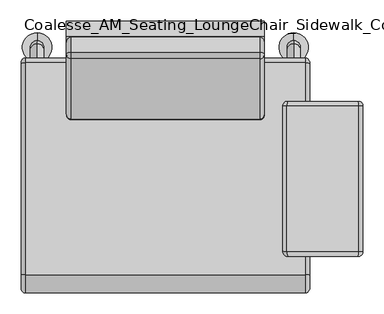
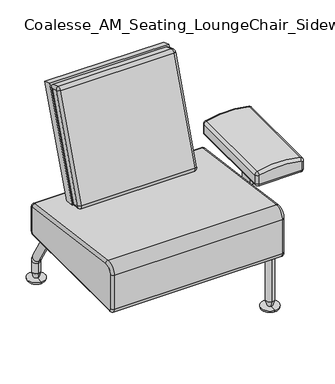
"""IFC4 building model written with IfcOpenShell, lengths in millimetres: furniture geometry, Coalesse_AM_Seating_LoungeChair_Sidewalk_Collaborative : Left Arm."""

from ifc_helpers import new_model, si_unit, point, frame, origin, place, context, project, spatial, polyline, circle_curve, ellipse_curve, trimmed, outline, extrude, source, transform, mapped, element, save
from ifc_brep_helpers import plane_surface, cylinder_surface, revolved_surface, advanced_brep


def coalesse_am_seating_loungechair_sidewalk_collaborative_left_ebcdef7f(model_context):
    return source(origin(), model_context, "Body", "SolidModel", [
        advanced_brep(
        [(122.9089794, 412.7742549, 335.1190448), (122.9089794, 414.1472627, 333.546102), (122.9089794, 414.1472627, 228.6), (122.9089794, 412.5597627, 227.0125), (122.9089794, -114.4902373, 227.0125), (122.9089794, -122.4277373, 234.95), (122.9089794, -122.4277373, 377.1837519), (122.9089794, -91.7938701, 403.9237811), (808.7089794, -91.7938701, 403.9237811), (808.7089794, -122.4277373, 377.1837519), (808.7089794, -122.4277373, 234.95), (808.7089794, -114.4902373, 227.0125), (808.7089794, 412.5597627, 227.0125), (808.7089794, 414.1472627, 228.6), (808.7089794, 414.1472627, 333.546102), (808.7089794, 412.7742549, 335.1190448), (797.5964794, -90.2924248, 414.9343814), (797.5964794, 414.2757002, 346.1296451), (134.0214794, 414.2757002, 346.1296451), (134.0214794, -90.2924248, 414.9343814), (797.5964794, 425.2597627, 333.546102), (134.0214794, 425.2597627, 333.546102), (797.5964794, 425.2597627, 228.6), (134.0214794, 425.2597627, 228.6), (797.5964794, 412.5597627, 215.9), (134.0214794, 412.5597627, 215.9), (797.5964794, -114.4902373, 215.9), (134.0214794, -114.4902373, 215.9), (797.5964794, -133.5402373, 234.95), (134.0214726, -133.5402373, 234.95), (797.5964794, -133.5402373, 377.1837519), (134.0214794, -133.5402373, 377.1837519)],
        [
            (0, 1, circle_curve(frame((122.9089794, 412.5597627, 333.546102), z_axis=(-1.0, 0.0, 0.0), x_axis=(0.0, 0.13511318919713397, 0.9908301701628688)), 1.5875)),
            (1, 2),
            (2, 3, circle_curve(frame((122.9089794, 412.5597627, 228.6), z_axis=(-1.0, 0.0, 0.0), x_axis=(0.0, 1.0, 0.0)), 1.5875)),
            (3, 4),
            (4, 5, circle_curve(frame((122.9089794, -114.4902373, 234.95), z_axis=(-1.0, 0.0, 0.0), x_axis=(0.0, 0.0, -1.0)), 7.9375)),
            (5, 6),
            (6, 7, circle_curve(frame((122.9089794, -95.4402373, 377.1837519), z_axis=(-1.0, 0.0, 0.0), x_axis=(0.0, -1.0, 0.0)), 26.9875)),
            (7, 0),
            (8, 9, circle_curve(frame((808.7089794, -95.4402373, 377.1837519), z_axis=(1.0, 0.0, 0.0), x_axis=(0.0, 0.13511318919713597, 0.9908301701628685)), 26.9875)),
            (9, 10),
            (10, 11, circle_curve(frame((808.7089794, -114.4902373, 234.95), z_axis=(1.0, 0.0, 0.0), x_axis=(0.0, -1.0, 0.0)), 7.9375)),
            (11, 12),
            (12, 13, circle_curve(frame((808.7089794, 412.5597627, 228.6), z_axis=(1.0, 0.0, 0.0), x_axis=(0.0, 0.0, -1.0)), 1.5875)),
            (13, 14),
            (14, 15, circle_curve(frame((808.7089794, 412.5597627, 333.546102), z_axis=(1.0, 0.0, 0.0), x_axis=(0.0, 1.0, 0.0)), 1.5875)),
            (15, 8),
            (16, 17),
            (17, 18),
            (18, 19),
            (19, 16),
            (17, 20, circle_curve(frame((797.5964794, 412.5597627, 333.546102), z_axis=(-1.0, 0.0, 0.0), x_axis=(0.0, -1.0, 0.0)), 12.7)),
            (20, 21),
            (21, 18, circle_curve(frame((134.0214794, 412.5597627, 333.546102), z_axis=(1.0, 0.0, 0.0), x_axis=(0.0, -1.0, 0.0)), 12.7)),
            (20, 22),
            (22, 23),
            (23, 21),
            (22, 24, circle_curve(frame((797.5964794, 412.5597627, 228.6), z_axis=(-1.0, 0.0, 0.0), x_axis=(0.0, -1.0, 0.0)), 12.7)),
            (24, 25),
            (25, 23, circle_curve(frame((134.0214794, 412.5597627, 228.6), z_axis=(1.0, 0.0, 0.0), x_axis=(0.0, -1.0, 0.0)), 12.7)),
            (24, 26),
            (26, 27),
            (27, 25),
            (26, 28, circle_curve(frame((797.5964794, -114.4902373, 234.95), z_axis=(-1.0, 0.0, 0.0), x_axis=(0.0, -1.0, 0.0)), 19.05)),
            (28, 29),
            (29, 27, circle_curve(frame((134.0214794, -114.4902373, 234.95), z_axis=(1.0, 0.0, 0.0), x_axis=(0.0, -1.0, 0.0)), 19.05)),
            (28, 30),
            (30, 31),
            (31, 29),
            (30, 16, circle_curve(frame((797.5964794, -95.4402373, 377.1837519), z_axis=(-1.0, 0.0, 0.0), x_axis=(0.0, -1.0, 0.0)), 38.1)),
            (19, 31, circle_curve(frame((134.0214794, -95.4402373, 377.1837519), z_axis=(1.0, 0.0, 0.0), x_axis=(0.0, -1.0, 0.0)), 38.1)),
            (30, 9, circle_curve(frame((797.5964794, -122.4277373, 377.1837519), z_axis=(0.0, 0.0, 0.9999999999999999), x_axis=(0.0, -0.9999999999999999, 0.0)), 11.1125)),
            (8, 16, circle_curve(frame((797.5964794, -91.7938701, 403.9237811), z_axis=(0.0, -0.9908301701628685, 0.13511318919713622), x_axis=(0.0, 0.13511318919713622, 0.9908301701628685)), 11.1125)),
            (28, 10, circle_curve(frame((797.5964794, -122.4277373, 234.95), z_axis=(0.0, 0.0, 1.0), x_axis=(0.0, -1.0, 0.0)), 11.1125)),
            (26, 11, circle_curve(frame((797.5964794, -114.4902373, 227.0125), z_axis=(0.0, -1.0, 0.0), x_axis=(0.0, 0.0, -1.0)), 11.1125)),
            (24, 12, circle_curve(frame((797.5964794, 412.5597627, 227.0125), z_axis=(0.0, -1.0, 0.0), x_axis=(0.0, 0.0, -1.0)), 11.1125)),
            (22, 13, circle_curve(frame((797.5964794, 414.1472627, 228.6), z_axis=(0.0, 0.0, -1.0), x_axis=(0.0, 1.0, 0.0)), 11.1125)),
            (20, 14, circle_curve(frame((797.5964794, 414.1472627, 333.546102), z_axis=(0.0, 0.0, -1.0), x_axis=(0.0, 1.0, 0.0)), 11.1125)),
            (17, 15, circle_curve(frame((797.5964794, 412.7742549, 335.1190448), z_axis=(0.0, 0.9908301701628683, -0.13511318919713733), x_axis=(0.0, 0.13511318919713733, 0.9908301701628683)), 11.1125)),
            (21, 1, circle_curve(frame((134.0214794, 414.1472627, 333.546102), z_axis=(0.0, 0.0, 1.0), x_axis=(0.0, -1.0, 0.0)), 11.1125)),
            (0, 18, circle_curve(frame((134.0214794, 412.7742549, 335.1190448), z_axis=(0.0, 0.9908301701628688, -0.13511318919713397), x_axis=(0.0, -0.13511318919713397, -0.9908301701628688)), 11.1125)),
            (23, 2, circle_curve(frame((134.0214794, 414.1472627, 228.6), z_axis=(0.0, 0.0, 1.0), x_axis=(0.0, -1.0, 0.0)), 11.1125)),
            (25, 3, circle_curve(frame((134.0214794, 412.5597627, 227.0125), z_axis=(0.0, 1.0, 0.0), x_axis=(0.0, 0.0, 1.0)), 11.1125)),
            (27, 4, circle_curve(frame((134.0214794, -114.4902373, 227.0125), z_axis=(0.0, 1.0, 0.0), x_axis=(0.0, 0.0, 1.0)), 11.1125)),
            (29, 5, circle_curve(frame((134.0214794, -122.4277373, 234.95), z_axis=(0.0, 0.0, -1.0), x_axis=(0.0, 1.0, 0.0)), 11.1125)),
            (31, 6, circle_curve(frame((134.0214794, -122.4277373, 377.1837519), z_axis=(0.0, 0.0, -1.0), x_axis=(0.0, 1.0, 0.0)), 11.1125)),
            (19, 7, circle_curve(frame((134.0214794, -91.7938701, 403.9237811), z_axis=(0.0, -0.9908301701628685, 0.1351131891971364), x_axis=(0.0, -0.1351131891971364, -0.9908301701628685)), 11.1125)),
        ],
        [
            plane_surface(frame((122.9089794, 564.9597627, 325.5818208), z_axis=(-1.0000000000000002, 0.0, 0.0), x_axis=(0.0, 0.9908301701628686, -0.1351131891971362))),
            plane_surface(frame((808.7089794, 564.9597627, 325.5818208), z_axis=(1.0000000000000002, 0.0, 0.0), x_axis=(0.0, -0.9908301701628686, 0.1351131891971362))),
            plane_surface(frame((122.9089794, -90.2924248, 414.9343814), z_axis=(0.0, 0.1351131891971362, 0.9908301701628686), x_axis=(1.0, 0.0, 0.0))),
            cylinder_surface(frame((808.7089794, 412.5597627, 333.546102), z_axis=(-1.0, 0.0, 0.0), x_axis=(0.0, -1.0, 0.0)), 12.7),
            plane_surface(frame((122.9089794, 425.2597627, 333.546102), z_axis=(0.0, 1.0, 0.0), x_axis=(1.0, 0.0, 0.0))),
            cylinder_surface(frame((808.7089794, 412.5597627, 228.6), z_axis=(-1.0, 0.0, 0.0), x_axis=(0.0, -1.0, 0.0)), 12.7),
            plane_surface(frame((122.9089794, 412.5597627, 215.9), z_axis=(0.0, 0.0, -1.0), x_axis=(1.0, 0.0, 0.0))),
            cylinder_surface(frame((808.7089794, -114.4902373, 234.95), z_axis=(-1.0, 0.0, 0.0), x_axis=(0.0, -1.0, 0.0)), 19.05),
            plane_surface(frame((122.9089794, -133.5402373, 234.95), z_axis=(0.0, -1.0, 0.0), x_axis=(1.0, 0.0, 0.0))),
            cylinder_surface(frame((808.7089794, -95.4402373, 377.1837519), z_axis=(-1.0, 0.0, 0.0), x_axis=(0.0, -1.0, 0.0)), 38.1),
            revolved_surface(trimmed(ellipse_curve(frame((797.5964794, -91.7938701, 403.9237811), z_axis=(0.0, 0.9908301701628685, -0.13511318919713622), x_axis=(0.0, 0.13511318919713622, 0.9908301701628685)), 11.1125, 11.1125), [point((797.5964794, -90.2924248, 414.9343814))], [point((808.7089794, -91.7938701, 403.9237811))], True, "CARTESIAN"), (808.7089794, -95.4402373, 377.1837519), (1.0, 0.0, 0.0)),
            cylinder_surface(frame((797.5964794, -122.4277373, 377.1837519), z_axis=(0.0, 0.0, -1.0), x_axis=(0.0, -1.0, 0.0)), 11.1125),
            revolved_surface(trimmed(ellipse_curve(frame((797.5964794, -122.4277373, 234.95), z_axis=(0.0, 0.0, 1.0), x_axis=(0.0, -1.0, 0.0)), 11.1125, 11.1125), [point((797.5964794, -133.5402373, 234.95))], [point((808.7089794, -122.4277373, 234.95))], True, "CARTESIAN"), (808.7089794, -114.4902373, 234.95), (1.0, 0.0, 0.0)),
            cylinder_surface(frame((797.5964794, -114.4902373, 227.0125), z_axis=(0.0, 1.0, 0.0), x_axis=(0.0, 0.0, -1.0)), 11.1125),
            revolved_surface(trimmed(ellipse_curve(frame((797.5964794, 412.5597627, 227.0125), z_axis=(0.0, -1.0, 0.0), x_axis=(0.0, 0.0, -1.0)), 11.1125, 11.1125), [point((797.5964794, 412.5597627, 215.9))], [point((808.7089794, 412.5597627, 227.0125))], True, "CARTESIAN"), (808.7089794, 412.5597627, 228.6), (1.0, 0.0, 0.0)),
            cylinder_surface(frame((797.5964794, 414.1472627, 228.6), z_axis=(0.0, 0.0, 1.0), x_axis=(0.0, 1.0, 0.0)), 11.1125),
            revolved_surface(trimmed(ellipse_curve(frame((797.5964794, 414.1472627, 333.546102), z_axis=(0.0, 0.0, -1.0), x_axis=(0.0, 1.0, 0.0)), 11.1125, 11.1125), [point((797.5964794, 425.2597627, 333.546102))], [point((808.7089794, 414.1472627, 333.546102))], True, "CARTESIAN"), (808.7089794, 412.5597627, 333.546102), (1.0, 0.0, 0.0)),
            cylinder_surface(frame((797.5964794, 412.7742549, 335.1190448), z_axis=(0.0, -0.9908301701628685, 0.13511318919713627), x_axis=(0.0, 0.13511318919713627, 0.9908301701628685)), 11.1125),
            revolved_surface(trimmed(ellipse_curve(frame((134.0214794, 412.7742549, 335.1190448), z_axis=(0.0, -0.9908301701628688, 0.13511318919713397), x_axis=(0.0, -0.13511318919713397, -0.9908301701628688)), 11.1125, 11.1125), [point((134.0214794, 414.2757002, 346.1296451))], [point((122.9089794, 412.7742549, 335.1190448))], True, "CARTESIAN"), (122.9089794, 412.5597627, 333.546102), (-1.0, 0.0, 0.0)),
            cylinder_surface(frame((134.0214794, 414.1472627, 333.546102), z_axis=(0.0, 0.0, -1.0), x_axis=(0.0, -1.0, 0.0)), 11.1125),
            revolved_surface(trimmed(ellipse_curve(frame((134.0214794, 414.1472627, 228.6), z_axis=(0.0, 0.0, 1.0), x_axis=(0.0, -1.0, 0.0)), 11.1125, 11.1125), [point((134.0214794, 425.2597627, 228.6))], [point((122.9089794, 414.1472627, 228.6))], True, "CARTESIAN"), (122.9089794, 412.5597627, 228.6), (-1.0, 0.0, 0.0)),
            cylinder_surface(frame((134.0214794, 412.5597627, 227.0125), z_axis=(0.0, -1.0, 0.0), x_axis=(0.0, 0.0, 1.0)), 11.1125),
            revolved_surface(trimmed(ellipse_curve(frame((134.0214794, -114.4902373, 227.0125), z_axis=(0.0, 1.0, 0.0), x_axis=(0.0, 0.0, 1.0)), 11.1125, 11.1125), [point((134.0214794, -114.4902373, 215.9))], [point((122.9089794, -114.4902373, 227.0125))], True, "CARTESIAN"), (122.9089794, -114.4902373, 234.95), (-1.0, 0.0, 0.0)),
            cylinder_surface(frame((134.0214794, -122.4277373, 234.95), z_axis=(0.0, 0.0, 1.0), x_axis=(0.0, 1.0, 0.0)), 11.1125),
            revolved_surface(trimmed(ellipse_curve(frame((134.0214794, -122.4277373, 377.1837519), z_axis=(0.0, 0.0, -1.0), x_axis=(0.0, 1.0, 0.0)), 11.1125, 11.1125), [point((134.0214794, -133.5402373, 377.1837519))], [point((122.9089794, -122.4277373, 377.1837519))], True, "CARTESIAN"), (122.9089794, -95.4402373, 377.1837519), (-1.0, 0.0, 0.0)),
            cylinder_surface(frame((134.0214794, -91.7938701, 403.9237811), z_axis=(0.0, 0.9908301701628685, -0.1351131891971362), x_axis=(0.0, -0.1351131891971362, -0.9908301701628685)), 11.1125),
        ],
        [
            (0, [[1, 2, 3, 4, 5, 6, 7, 8]]),
            (1, [[9, 10, 11, 12, 13, 14, 15, 16]]),
            (2, [[17, 18, 19, 20]]),
            (3, [[21, 22, 23, -18]]),
            (4, [[24, 25, 26, -22]]),
            (5, [[27, 28, 29, -25]]),
            (6, [[30, 31, 32, -28]]),
            (7, [[33, 34, 35, -31]]),
            (8, [[36, 37, 38, -34]]),
            (9, [[39, -20, 40, -37]]),
            (10, [[41, -9, 42, -39]]),
            (11, [[-41, -36, 43, -10]]),
            (12, [[-43, -33, 44, -11]]),
            (13, [[-44, -30, 45, -12]]),
            (14, [[-45, -27, 46, -13]]),
            (15, [[-46, -24, 47, -14]]),
            (16, [[-47, -21, 48, -15]]),
            (17, [[-42, -16, -48, -17]]),
            (18, [[49, -1, 50, -23]]),
            (19, [[-49, -26, 51, -2]]),
            (20, [[-51, -29, 52, -3]]),
            (21, [[-52, -32, 53, -4]]),
            (22, [[-53, -35, 54, -5]]),
            (23, [[-54, -38, 55, -6]]),
            (24, [[-55, -40, 56, -7]]),
            (25, [[-50, -8, -56, -19]]),
        ],
    ),
        advanced_brep(
        [(923.9725321, -46.3480901, 523.5679776), (922.7611862, -46.3480901, 525.1102695), (756.908878, -46.3480901, 525.1102695), (755.6975321, -46.3480901, 523.5679776), (755.6975321, -46.3480901, 488.95), (757.2850321, -46.3480901, 487.3625), (922.3850321, -46.3480901, 487.3625), (923.9725321, -46.3480901, 488.95), (755.6975321, 321.9519099, 523.5679776), (756.908878, 321.9519099, 525.1102695), (922.7611862, 321.9519099, 525.1102695), (923.9725321, 321.9519099, 523.5679776), (923.9725321, 321.9519099, 488.95), (922.3850321, 321.9519099, 487.3625), (757.2850321, 321.9519099, 487.3625), (755.6975321, 321.9519099, 488.95), (922.3850321, -35.2355901, 476.25), (757.2850321, -35.2355901, 476.25), (757.2850321, 310.8394099, 476.25), (922.3850321, 310.8394099, 476.25), (935.0850321, -35.2355901, 488.95), (935.0850321, 310.8394099, 488.95), (935.0850321, -35.2355901, 523.5679776), (935.0850321, 310.8394099, 523.5679776), (925.394265, -35.2355901, 535.9063129), (925.394265, 310.8394099, 535.9063129), (754.2757993, -35.2355901, 535.9063129), (754.2757993, 310.8394099, 535.9063129), (744.5850321, -35.2355901, 523.5679776), (744.5850321, 310.8394099, 523.5679776), (744.5850321, -35.2355901, 488.95), (744.5850321, 310.8394099, 488.95)],
        [
            (0, 1, circle_curve(frame((922.3850321, -46.3480901, 523.5679776), z_axis=(0.0, -1.0, 0.0), x_axis=(0.23694746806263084, 0.0, 0.9715224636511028)), 1.5875)),
            (1, 2, circle_curve(frame((839.8350321, -46.3480901, 185.0997929), z_axis=(0.0, -1.0, 0.0), x_axis=(-0.23694746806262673, 0.0, 0.971522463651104)), 349.9769581)),
            (2, 3, circle_curve(frame((757.2850321, -46.3480901, 523.5679776), z_axis=(0.0, -1.0, 0.0), x_axis=(-1.0, 0.0, 0.0)), 1.5875)),
            (3, 4),
            (4, 5, circle_curve(frame((757.2850321, -46.3480901, 488.95), z_axis=(0.0, -1.0, 0.0), x_axis=(0.0, 0.0, -1.0)), 1.5875)),
            (5, 6),
            (6, 7, circle_curve(frame((922.3850321, -46.3480901, 488.95), z_axis=(0.0, -1.0, 0.0), x_axis=(1.0, 0.0, 0.0)), 1.5875)),
            (7, 0),
            (8, 9, circle_curve(frame((757.2850321, 321.9519099, 523.5679776), z_axis=(0.0, 1.0, 0.0), x_axis=(-0.2369474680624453, 0.0, 0.9715224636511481)), 1.5875)),
            (9, 10, circle_curve(frame((839.8350321, 321.9519099, 185.0997929), z_axis=(0.0, 1.0, 0.0), x_axis=(0.23694746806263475, 0.0, 0.971522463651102)), 349.9769581)),
            (10, 11, circle_curve(frame((922.3850321, 321.9519099, 523.5679776), z_axis=(0.0, 1.0, 0.0), x_axis=(1.0, 0.0, 0.0)), 1.5875)),
            (11, 12),
            (12, 13, circle_curve(frame((922.3850321, 321.9519099, 488.95), z_axis=(0.0, 1.0, 0.0), x_axis=(0.0, 0.0, -1.0)), 1.5875)),
            (13, 14),
            (14, 15, circle_curve(frame((757.2850321, 321.9519099, 488.95), z_axis=(0.0, 1.0, 0.0), x_axis=(-1.0, 0.0, 0.0)), 1.5875)),
            (15, 8),
            (16, 17),
            (17, 18),
            (18, 19),
            (19, 16),
            (20, 16, circle_curve(frame((922.3850321, -35.2355901, 488.95), z_axis=(0.0, 1.0, 0.0), x_axis=(-1.0, 0.0, 0.0)), 12.7)),
            (19, 21, circle_curve(frame((922.3850321, 310.8394099, 488.95), z_axis=(0.0, -1.0, 0.0), x_axis=(-1.0, 0.0, 0.0)), 12.7)),
            (21, 20),
            (22, 20),
            (21, 23),
            (23, 22),
            (24, 22, circle_curve(frame((922.3850321, -35.2355901, 523.5679776), z_axis=(0.0, 1.0, 0.0), x_axis=(-1.0, 0.0, 0.0)), 12.7)),
            (23, 25, circle_curve(frame((922.3850321, 310.8394099, 523.5679776), z_axis=(0.0, -1.0, 0.0), x_axis=(-1.0, 0.0, 0.0)), 12.7)),
            (25, 24),
            (26, 24, circle_curve(frame((839.8350321, -35.2355901, 185.0997929), z_axis=(0.0, 1.0, 0.0), x_axis=(-1.0, 0.0, 0.0)), 361.0894581)),
            (25, 27, circle_curve(frame((839.8350321, 310.8394099, 185.0997929), z_axis=(0.0, -1.0, 0.0), x_axis=(-1.0, 0.0, 0.0)), 361.0894581)),
            (27, 26),
            (28, 26, circle_curve(frame((757.2850321, -35.2355901, 523.5679776), z_axis=(0.0, 1.0, 0.0), x_axis=(-1.0, 0.0, 0.0)), 12.7)),
            (27, 29, circle_curve(frame((757.2850321, 310.8394099, 523.5679776), z_axis=(0.0, -1.0, 0.0), x_axis=(-1.0, 0.0, 0.0)), 12.7)),
            (29, 28),
            (30, 28),
            (29, 31),
            (31, 30),
            (17, 30, circle_curve(frame((757.2850321, -35.2355901, 488.95), z_axis=(0.0, 1.0, 0.0), x_axis=(-1.0, 0.0, 0.0)), 12.7)),
            (31, 18, circle_curve(frame((757.2850321, 310.8394099, 488.95), z_axis=(0.0, -1.0, 0.0), x_axis=(-1.0, 0.0, 0.0)), 12.7)),
            (0, 22, circle_curve(frame((923.9725321, -35.2355901, 523.5679776), z_axis=(0.0, 0.0, 1.0), x_axis=(-1.0, 0.0, 0.0)), 11.1125)),
            (24, 1, circle_curve(frame((922.7611862, -35.2355901, 525.1102695), z_axis=(0.9715224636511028, 0.0, -0.23694746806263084), x_axis=(-0.23694746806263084, 0.0, -0.9715224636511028)), 11.1125)),
            (7, 20, circle_curve(frame((923.9725321, -35.2355901, 488.95), z_axis=(0.0, 0.0, 1.0), x_axis=(-1.0, 0.0, 0.0)), 11.1125)),
            (6, 16, circle_curve(frame((922.3850321, -35.2355901, 487.3625), z_axis=(1.0, 0.0, 0.0), x_axis=(0.0, 0.0, 1.0)), 11.1125)),
            (5, 17, circle_curve(frame((757.2850321, -35.2355901, 487.3625), z_axis=(1.0, 0.0, 0.0), x_axis=(0.0, 0.0, 1.0)), 11.1125)),
            (4, 30, circle_curve(frame((755.6975321, -35.2355901, 488.95), z_axis=(0.0, 0.0, -1.0), x_axis=(1.0, 0.0, 0.0)), 11.1125)),
            (3, 28, circle_curve(frame((755.6975321, -35.2355901, 523.5679776), z_axis=(0.0, 0.0, -1.0), x_axis=(1.0, 0.0, 0.0)), 11.1125)),
            (2, 26, circle_curve(frame((756.908878, -35.2355901, 525.1102695), z_axis=(-0.9715224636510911, 0.0, -0.23694746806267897), x_axis=(0.23694746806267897, 0.0, -0.9715224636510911)), 11.1125)),
            (8, 29, circle_curve(frame((755.6975321, 310.8394099, 523.5679776), z_axis=(0.0, 0.0, 1.0), x_axis=(-1.0, 0.0, 0.0)), 11.1125)),
            (27, 9, circle_curve(frame((756.908878, 310.8394099, 525.1102695), z_axis=(-0.9715224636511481, 0.0, -0.23694746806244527), x_axis=(-0.23694746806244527, 0.0, 0.9715224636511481)), 11.1125)),
            (15, 31, circle_curve(frame((755.6975321, 310.8394099, 488.95), z_axis=(0.0, 0.0, 1.0), x_axis=(-1.0, 0.0, 0.0)), 11.1125)),
            (14, 18, circle_curve(frame((757.2850321, 310.8394099, 487.3625), z_axis=(-1.0, 0.0, 0.0), x_axis=(0.0, 0.0, -1.0)), 11.1125)),
            (13, 19, circle_curve(frame((922.3850321, 310.8394099, 487.3625), z_axis=(-1.0, 0.0, 0.0), x_axis=(0.0, 0.0, -1.0)), 11.1125)),
            (12, 21, circle_curve(frame((923.9725321, 310.8394099, 488.95), z_axis=(0.0, 0.0, -1.0), x_axis=(1.0, 0.0, 0.0)), 11.1125)),
            (11, 23, circle_curve(frame((923.9725321, 310.8394099, 523.5679776), z_axis=(0.0, 0.0, -1.0), x_axis=(1.0, 0.0, 0.0)), 11.1125)),
            (10, 25, circle_curve(frame((922.7611862, 310.8394099, 525.1102695), z_axis=(0.9715224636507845, 0.0, -0.236947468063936), x_axis=(0.236947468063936, 0.0, 0.9715224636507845)), 11.1125)),
        ],
        [
            plane_surface(frame((935.0850321, -46.3480901, 476.25), z_axis=(0.0, -1.0, 0.0), x_axis=(1.0, 0.0, 0.0))),
            plane_surface(frame((935.0850321, 321.9519099, 476.25), z_axis=(0.0, 1.0, 0.0), x_axis=(-1.0, 0.0, 0.0))),
            plane_surface(frame((757.2850321, -46.3480901, 476.25), z_axis=(0.0, 0.0, -1.0), x_axis=(0.0, 1.0, 0.0))),
            cylinder_surface(frame((922.3850321, 321.9519099, 488.95), z_axis=(0.0, -1.0, 0.0), x_axis=(-1.0, 0.0, 0.0)), 12.7),
            plane_surface(frame((935.0850321, -46.3480901, 488.95), z_axis=(1.0, 0.0, 0.0), x_axis=(0.0, 1.0, 0.0))),
            cylinder_surface(frame((922.3850321, 321.9519099, 523.5679776), z_axis=(0.0, -1.0, 0.0), x_axis=(-1.0, 0.0, 0.0)), 12.7),
            cylinder_surface(frame((839.8350321, 321.9519099, 185.0997929), z_axis=(0.0, -1.0, 0.0), x_axis=(-1.0, 0.0, 0.0)), 361.0894581),
            cylinder_surface(frame((757.2850321, 321.9519099, 523.5679776), z_axis=(0.0, -1.0, 0.0), x_axis=(-1.0, 0.0, 0.0)), 12.7),
            plane_surface(frame((744.5850321, -46.3480901, 523.5679776), z_axis=(-1.0, 0.0, 0.0), x_axis=(0.0, 1.0, 0.0))),
            cylinder_surface(frame((757.2850321, 321.9519099, 488.95), z_axis=(0.0, -1.0, 0.0), x_axis=(-1.0, 0.0, 0.0)), 12.7),
            revolved_surface(trimmed(ellipse_curve(frame((922.7611862, -35.2355901, 525.1102695), z_axis=(-0.9715224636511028, 0.0, 0.23694746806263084), x_axis=(-0.23694746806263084, 0.0, -0.9715224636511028)), 11.1125, 11.1125), [point((922.7611862, -46.3480901, 525.1102695))], [point((925.394265, -35.2355901, 535.9063129))], True, "CARTESIAN"), (922.3850321, -46.3480901, 523.5679776), (0.0, 1.0, 0.0)),
            cylinder_surface(frame((923.9725321, -35.2355901, 523.5679776), z_axis=(0.0, 0.0, -1.0), x_axis=(-1.0, 0.0, 0.0)), 11.1125),
            revolved_surface(trimmed(ellipse_curve(frame((923.9725321, -35.2355901, 488.95), z_axis=(0.0, 0.0, 1.0), x_axis=(-1.0, 0.0, 0.0)), 11.1125, 11.1125), [point((923.9725321, -46.3480901, 488.95))], [point((935.0850321, -35.2355901, 488.95))], True, "CARTESIAN"), (922.3850321, -46.3480901, 488.95), (0.0, 1.0, 0.0)),
            cylinder_surface(frame((922.3850321, -35.2355901, 487.3625), z_axis=(-1.0, 0.0, 0.0), x_axis=(0.0, 0.0, 1.0)), 11.1125),
            revolved_surface(trimmed(ellipse_curve(frame((757.2850321, -35.2355901, 487.3625), z_axis=(1.0, 0.0, 0.0), x_axis=(0.0, 0.0, 1.0)), 11.1125, 11.1125), [point((757.2850321, -46.3480901, 487.3625))], [point((757.2850321, -35.2355901, 476.25))], True, "CARTESIAN"), (757.2850321, -46.3480901, 488.95), (0.0, 1.0, 0.0)),
            cylinder_surface(frame((755.6975321, -35.2355901, 488.95), z_axis=(0.0, 0.0, 1.0), x_axis=(1.0, 0.0, 0.0)), 11.1125),
            revolved_surface(trimmed(ellipse_curve(frame((755.6975321, -35.2355901, 523.5679776), z_axis=(0.0, 0.0, -1.0), x_axis=(1.0, 0.0, 0.0)), 11.1125, 11.1125), [point((755.6975321, -46.3480901, 523.5679776))], [point((744.5850321, -35.2355901, 523.5679776))], True, "CARTESIAN"), (757.2850321, -46.3480901, 523.5679776), (0.0, 1.0, 0.0)),
            revolved_surface(trimmed(ellipse_curve(frame((756.908878, -35.2355901, 525.1102695), z_axis=(-0.971522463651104, 0.0, -0.23694746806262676), x_axis=(0.23694746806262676, 0.0, -0.971522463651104)), 11.1125, 11.1125), [point((756.908878, -46.3480901, 525.1102695))], [point((754.2757993, -35.2355901, 535.9063129))], True, "CARTESIAN"), (839.8350321, -46.3480901, 185.0997929), (0.0, 1.0, 0.0)),
            revolved_surface(trimmed(ellipse_curve(frame((756.908878, 310.8394099, 525.1102695), z_axis=(0.9715224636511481, 0.0, 0.23694746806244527), x_axis=(-0.23694746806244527, 0.0, 0.9715224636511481)), 11.1125, 11.1125), [point((756.908878, 321.9519099, 525.1102695))], [point((754.2757993, 310.8394099, 535.9063129))], True, "CARTESIAN"), (757.2850321, 321.9519099, 523.5679776), (0.0, -1.0, 0.0)),
            cylinder_surface(frame((755.6975321, 310.8394099, 523.5679776), z_axis=(0.0, 0.0, -1.0), x_axis=(-1.0, 0.0, 0.0)), 11.1125),
            revolved_surface(trimmed(ellipse_curve(frame((755.6975321, 310.8394099, 488.95), z_axis=(0.0, 0.0, 1.0), x_axis=(-1.0, 0.0, 0.0)), 11.1125, 11.1125), [point((755.6975321, 321.9519099, 488.95))], [point((744.5850321, 310.8394099, 488.95))], True, "CARTESIAN"), (757.2850321, 321.9519099, 488.95), (0.0, -1.0, 0.0)),
            cylinder_surface(frame((757.2850321, 310.8394099, 487.3625), z_axis=(1.0, 0.0, 0.0), x_axis=(0.0, 0.0, -1.0)), 11.1125),
            revolved_surface(trimmed(ellipse_curve(frame((922.3850321, 310.8394099, 487.3625), z_axis=(-1.0, 0.0, 0.0), x_axis=(0.0, 0.0, -1.0)), 11.1125, 11.1125), [point((922.3850321, 321.9519099, 487.3625))], [point((922.3850321, 310.8394099, 476.25))], True, "CARTESIAN"), (922.3850321, 321.9519099, 488.95), (0.0, -1.0, 0.0)),
            cylinder_surface(frame((923.9725321, 310.8394099, 488.95), z_axis=(0.0, 0.0, 1.0), x_axis=(1.0, 0.0, 0.0)), 11.1125),
            revolved_surface(trimmed(ellipse_curve(frame((923.9725321, 310.8394099, 523.5679776), z_axis=(0.0, 0.0, -1.0), x_axis=(1.0, 0.0, 0.0)), 11.1125, 11.1125), [point((923.9725321, 321.9519099, 523.5679776))], [point((935.0850321, 310.8394099, 523.5679776))], True, "CARTESIAN"), (922.3850321, 321.9519099, 523.5679776), (0.0, -1.0, 0.0)),
            revolved_surface(trimmed(ellipse_curve(frame((922.7611862, 310.8394099, 525.1102695), z_axis=(0.971522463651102, 0.0, -0.2369474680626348), x_axis=(0.2369474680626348, 0.0, 0.971522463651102)), 11.1125, 11.1125), [point((922.7611862, 321.9519099, 525.1102695))], [point((925.394265, 310.8394099, 535.9063129))], True, "CARTESIAN"), (839.8350321, 321.9519099, 185.0997929), (0.0, -1.0, 0.0)),
        ],
        [
            (0, [[1, 2, 3, 4, 5, 6, 7, 8]]),
            (1, [[9, 10, 11, 12, 13, 14, 15, 16]]),
            (2, [[17, 18, 19, 20]]),
            (3, [[21, -20, 22, 23]]),
            (4, [[24, -23, 25, 26]]),
            (5, [[27, -26, 28, 29]]),
            (6, [[30, -29, 31, 32]]),
            (7, [[33, -32, 34, 35]]),
            (8, [[36, -35, 37, 38]]),
            (9, [[39, -38, 40, -18]]),
            (10, [[41, -27, 42, -1]]),
            (11, [[-41, -8, 43, -24]]),
            (12, [[-43, -7, 44, -21]]),
            (13, [[-44, -6, 45, -17]]),
            (14, [[-45, -5, 46, -39]]),
            (15, [[-46, -4, 47, -36]]),
            (16, [[-47, -3, 48, -33]]),
            (17, [[-42, -30, -48, -2]]),
            (18, [[49, -34, 50, -9]]),
            (19, [[-49, -16, 51, -37]]),
            (20, [[-51, -15, 52, -40]]),
            (21, [[-52, -14, 53, -19]]),
            (22, [[-53, -13, 54, -22]]),
            (23, [[-54, -12, 55, -25]]),
            (24, [[-55, -11, 56, -28]]),
            (25, [[-50, -31, -56, -10]]),
        ],
    ),
        extrude(outline(polyline([(207.2866207, 822.6014668), (476.25, 822.6014668), (476.25, 809.9014668), (213.6366207, 809.9014668), (213.6366207, 733.7014668), (207.2866207, 733.7014668), (207.2866207, 822.6014668)])), frame((0.0, 112.4019099, 0.0), z_axis=(0.0, 1.0, 0.0), x_axis=(0.0, 0.0, 1.0)), (0.0, 0.0, 1.0), 50.8),
        advanced_brep(
        [(230.8589764, 435.601958, 772.4897206), (230.8589764, 460.9619318, 763.2594642), (230.8589764, 317.9995565, 370.4735514), (230.8589764, 290.9791404, 374.1581532), (230.8589764, 289.7018705, 376.274053), (230.8589764, 433.56724, 771.5409151), (700.7589825, 289.7018705, 376.274053), (700.7589825, 290.9791404, 374.1581532), (700.7589825, 317.9995565, 370.4735514), (700.7589825, 460.9619318, 763.2594642), (700.7589825, 435.601958, 772.4897206), (700.7589825, 433.56724, 771.5409151), (241.9714764, 475.2049673, 769.9011067), (241.9714764, 439.4026498, 782.9320574), (689.6464825, 439.4026498, 782.9320574), (689.6464825, 475.2049673, 769.9011067), (241.9714764, 325.3770207, 358.2521909), (689.6464825, 325.3770207, 358.2521909), (241.9714764, 289.477695, 363.1475529), (689.6464825, 289.477695, 363.1475529), (241.9714764, 279.2595362, 380.0747518), (689.6464825, 279.2595362, 380.0747518), (241.9714764, 423.1249057, 775.3416139), (689.6464825, 423.1249057, 775.3416139)],
        [
            (0, 1),
            (1, 2),
            (2, 3),
            (3, 4, circle_curve(frame((230.8589764, 291.1936325, 375.7310961), z_axis=(-1.0, 0.0, 0.0), x_axis=(0.0, -0.13511318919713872, -0.9908301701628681)), 1.5875)),
            (4, 5),
            (5, 0, circle_curve(frame((230.8589764, 435.059002, 770.9979582), z_axis=(-1.0, 0.0, 0.0), x_axis=(0.0, -0.9396926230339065, 0.3420201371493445)), 1.5875)),
            (6, 7, circle_curve(frame((700.7589825, 291.1936325, 375.7310961), z_axis=(1.0, 0.0, 0.0), x_axis=(0.0, -0.9396926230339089, 0.3420201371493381)), 1.5875)),
            (7, 8),
            (8, 9),
            (9, 10),
            (10, 11, circle_curve(frame((700.7589825, 435.059002, 770.9979582), z_axis=(1.0, 0.0, 0.0), x_axis=(0.0, 0.34201951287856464, 0.939692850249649)), 1.5875)),
            (11, 6),
            (12, 13),
            (13, 14),
            (14, 15),
            (15, 12),
            (16, 12),
            (15, 17),
            (17, 16),
            (18, 16),
            (17, 19),
            (19, 18),
            (20, 18, circle_curve(frame((241.9714764, 291.1936325, 375.7310961), z_axis=(1.0, 0.0, 0.0), x_axis=(0.0, -1.0, 0.0)), 12.7)),
            (19, 21, circle_curve(frame((689.6464825, 291.1936325, 375.7310961), z_axis=(-1.0, 0.0, 0.0), x_axis=(0.0, -1.0, 0.0)), 12.7)),
            (21, 20),
            (22, 20),
            (21, 23),
            (23, 22),
            (13, 22, circle_curve(frame((241.9714764, 435.059002, 770.9979582), z_axis=(1.0, 0.0, 0.0), x_axis=(0.0, -1.0, 0.0)), 12.7)),
            (23, 14, circle_curve(frame((689.6464825, 435.059002, 770.9979582), z_axis=(-1.0, 0.0, 0.0), x_axis=(0.0, -1.0, 0.0)), 12.7)),
            (12, 1, ellipse_curve(frame((241.9714764, 460.9619318, 763.2594642), z_axis=(0.0, -0.4226185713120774, 0.9063076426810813), x_axis=(0.0, 0.9063076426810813, 0.4226185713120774)), 15.7154534, 11.1125)),
            (0, 13, circle_curve(frame((241.9714764, 435.601958, 772.4897206), z_axis=(0.0, 0.9396928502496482, -0.34201951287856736), x_axis=(0.0, -0.3420195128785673, -0.939692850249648)), 11.1125)),
            (16, 2, ellipse_curve(frame((241.9714764, 317.9995565, 370.4735514), z_axis=(0.0, 0.8561100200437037, 0.5167936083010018), x_axis=(0.0, 0.5167936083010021, -0.8561100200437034)), 14.2754555, 11.1125)),
            (18, 3, circle_curve(frame((241.9714764, 290.9791404, 374.1581532), z_axis=(0.0, 0.9908301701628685, -0.13511318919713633), x_axis=(0.0, 0.13511318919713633, 0.9908301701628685)), 11.1125)),
            (20, 4, circle_curve(frame((241.9714764, 289.7018705, 376.274053), z_axis=(0.0, -0.34202013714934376, -0.9396926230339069), x_axis=(0.0, 0.9396926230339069, -0.34202013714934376)), 11.1125)),
            (22, 5, circle_curve(frame((241.9714764, 433.56724, 771.5409151), z_axis=(0.0, -0.34202013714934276, -0.9396926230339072), x_axis=(0.0, 0.9396926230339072, -0.34202013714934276)), 11.1125)),
            (19, 7, circle_curve(frame((689.6464825, 290.9791404, 374.1581532), z_axis=(0.0, -0.9908301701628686, 0.13511318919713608), x_axis=(0.0, -0.13511318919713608, -0.9908301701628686)), 11.1125)),
            (6, 21, circle_curve(frame((689.6464825, 289.7018705, 376.274053), z_axis=(0.0, -0.34202013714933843, -0.9396926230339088), x_axis=(0.0, -0.9396926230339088, 0.34202013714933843)), 11.1125)),
            (17, 8, ellipse_curve(frame((689.6464825, 317.9995565, 370.4735514), z_axis=(0.0, -0.8561100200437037, -0.5167936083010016), x_axis=(0.0, 0.5167936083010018, -0.8561100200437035)), 14.2754555, 11.1125)),
            (15, 9, ellipse_curve(frame((689.6464825, 460.9619318, 763.2594642), z_axis=(0.0, 0.4226185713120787, -0.9063076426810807), x_axis=(0.0, 0.9063076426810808, 0.42261857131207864)), 15.7154534, 11.1125)),
            (14, 10, circle_curve(frame((689.6464825, 435.601958, 772.4897206), z_axis=(0.0, 0.9396928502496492, -0.3420195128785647), x_axis=(0.0, 0.34201951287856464, 0.939692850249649)), 11.1125)),
            (23, 11, circle_curve(frame((689.6464825, 433.56724, 771.5409151), z_axis=(0.0, 0.34202013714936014, 0.9396926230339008), x_axis=(0.0, -0.9396926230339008, 0.34202013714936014)), 11.1125)),
        ],
        [
            plane_surface(frame((230.8589764, 476.9677554, 769.2595057), z_axis=(-1.0, 0.0, 0.0), x_axis=(0.0, 0.9396928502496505, -0.3420195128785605))),
            plane_surface(frame((700.7589825, 476.9677554, 769.2595057), z_axis=(1.0, 0.0, 0.0), x_axis=(0.0, -0.9396928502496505, 0.3420195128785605))),
            plane_surface(frame((230.8589764, 439.4026498, 782.9320574), z_axis=(0.0, 0.3420195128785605, 0.9396928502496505), x_axis=(1.0, 0.0, 0.0))),
            plane_surface(frame((230.8589764, 475.2049673, 769.9011067), z_axis=(0.0, 0.939692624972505, -0.34202013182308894), x_axis=(1.0, 0.0, 0.0))),
            plane_surface(frame((230.8589764, 325.3770207, 358.2521909), z_axis=(0.0, -0.13511318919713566, -0.9908301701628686), x_axis=(1.0, 0.0, 0.0))),
            cylinder_surface(frame((700.7589825, 291.1936325, 375.7310961), z_axis=(-1.0, 0.0, 0.0), x_axis=(0.0, -1.0, 0.0)), 12.7),
            plane_surface(frame((230.8589764, 279.2595362, 380.0747518), z_axis=(0.0, -0.9396926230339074, 0.3420201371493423), x_axis=(1.0, 0.0, 0.0))),
            cylinder_surface(frame((700.7589825, 435.059002, 770.9979582), z_axis=(-1.0, 0.0, 0.0), x_axis=(0.0, -1.0, 0.0)), 12.7),
            cylinder_surface(frame((241.9714764, 435.601958, 772.4897206), z_axis=(0.0, 0.939692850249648, -0.3420195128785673), x_axis=(0.0, -0.3420195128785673, -0.939692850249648)), 11.1125),
            cylinder_surface(frame((241.9714764, 464.762633, 773.7018054), z_axis=(0.0, -0.3420201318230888, -0.939692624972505), x_axis=(0.0, -0.939692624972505, 0.3420201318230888)), 11.1125),
            cylinder_surface(frame((241.9714764, 326.878466, 369.2627912), z_axis=(0.0, -0.9908301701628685, 0.13511318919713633), x_axis=(0.0, 0.13511318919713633, 0.9908301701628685)), 11.1125),
            revolved_surface(trimmed(ellipse_curve(frame((241.9714764, 290.9791404, 374.1581532), z_axis=(0.0, 0.9908301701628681, -0.1351131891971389), x_axis=(0.0, 0.1351131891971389, 0.9908301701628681)), 11.1125, 11.1125), [point((241.9714764, 289.477695, 363.1475529))], [point((230.8589764, 290.9791404, 374.1581532))], True, "CARTESIAN"), (230.8589764, 291.1936325, 375.7310961), (-1.0, 0.0, 0.0)),
            cylinder_surface(frame((241.9714764, 289.7018705, 376.274053), z_axis=(0.0, 0.34202013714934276, 0.9396926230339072), x_axis=(0.0, 0.9396926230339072, -0.34202013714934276)), 11.1125),
            revolved_surface(trimmed(ellipse_curve(frame((241.9714764, 433.56724, 771.5409151), z_axis=(0.0, -0.342020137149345, -0.9396926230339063), x_axis=(0.0, 0.9396926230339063, -0.342020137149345)), 11.1125, 11.1125), [point((241.9714764, 423.1249057, 775.3416139))], [point((230.8589764, 433.56724, 771.5409151))], True, "CARTESIAN"), (230.8589764, 435.059002, 770.9979582), (-1.0, 0.0, 0.0)),
            revolved_surface(trimmed(ellipse_curve(frame((689.6464825, 289.7018705, 376.274053), z_axis=(0.0, 0.34202013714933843, 0.9396926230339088), x_axis=(0.0, -0.9396926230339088, 0.34202013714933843)), 11.1125, 11.1125), [point((689.6464825, 279.2595362, 380.0747518))], [point((700.7589825, 289.7018705, 376.274053))], True, "CARTESIAN"), (700.7589825, 291.1936325, 375.7310961), (1.0, 0.0, 0.0)),
            cylinder_surface(frame((689.6464825, 290.9791404, 374.1581532), z_axis=(0.0, 0.9908301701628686, -0.1351131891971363), x_axis=(0.0, -0.1351131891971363, -0.9908301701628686)), 11.1125),
            cylinder_surface(frame((689.6464825, 314.9346864, 362.0528896), z_axis=(0.0, 0.34202013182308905, 0.9396926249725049), x_axis=(0.0, 0.9396926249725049, -0.34202013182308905)), 11.1125),
            cylinder_surface(frame((689.6464825, 471.4042755, 759.4587699), z_axis=(0.0, -0.939692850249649, 0.34201951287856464), x_axis=(0.0, 0.34201951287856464, 0.939692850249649)), 11.1125),
            revolved_surface(trimmed(ellipse_curve(frame((689.6464825, 435.601958, 772.4897206), z_axis=(0.0, 0.939692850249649, -0.3420195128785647), x_axis=(0.0, 0.3420195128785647, 0.939692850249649)), 11.1125, 11.1125), [point((689.6464825, 439.4026498, 782.9320574))], [point((700.7589825, 435.601958, 772.4897206))], True, "CARTESIAN"), (700.7589825, 435.059002, 770.9979582), (1.0, 0.0, 0.0)),
            cylinder_surface(frame((689.6464825, 433.56724, 771.5409151), z_axis=(0.0, -0.34202013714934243, -0.9396926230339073), x_axis=(0.0, -0.9396926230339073, 0.34202013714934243)), 11.1125),
        ],
        [
            (0, [[1, 2, 3, 4, 5, 6]]),
            (1, [[7, 8, 9, 10, 11, 12]]),
            (2, [[13, 14, 15, 16]]),
            (3, [[17, -16, 18, 19]]),
            (4, [[20, -19, 21, 22]]),
            (5, [[23, -22, 24, 25]]),
            (6, [[26, -25, 27, 28]]),
            (7, [[29, -28, 30, -14]]),
            (8, [[31, -1, 32, -13]]),
            (9, [[-31, -17, 33, -2]]),
            (10, [[-33, -20, 34, -3]]),
            (11, [[-34, -23, 35, -4]]),
            (12, [[-35, -26, 36, -5]]),
            (13, [[-32, -6, -36, -29]]),
            (14, [[37, -7, 38, -24]]),
            (15, [[-37, -21, 39, -8]]),
            (16, [[-39, -18, 40, -9]]),
            (17, [[-40, -15, 41, -10]]),
            (18, [[-41, -30, 42, -11]]),
            (19, [[-38, -12, -42, -27]]),
        ],
    ),
        extrude(outline(polyline([(513.2448372, 763.0177625), (364.0049937, 352.9847407), (325.3770207, 358.2521909), (477.4425175, 776.0487255), (513.2448372, 763.0177625)])), frame((230.8589764, 0.0, 0.0), z_axis=(1.0, 0.0, 0.0), x_axis=(0.0, 1.0, 0.0)), (0.0, 0.0, 1.0), 469.9000061),
        advanced_brep(
        [(770.5801534, 450.6597627, 0.0), (770.5801534, 484.5264293, 0.0), (770.5801534, 416.793096, 0.0), (770.5801534, 434.7847627, 31.75), (770.5801534, 466.5347627, 31.75), (770.5801534, 450.6597627, 31.75), (770.5801534, 440.7764092, 8.5001207), (770.5801534, 460.5431161, 8.5001207), (770.5801534, 415.7347627, 6.35), (770.5801534, 485.5847627, 6.35)],
        [
            (0, 1),
            (1, 2, circle_curve(frame((770.5801534, 450.6597627, 0.0), z_axis=(0.0, 0.0, -1.0), x_axis=(0.0, 1.0, 0.0)), 33.8666667)),
            (2, 0),
            (2, 1, circle_curve(frame((770.5801534, 450.6597627, 0.0), z_axis=(0.0, 0.0, -1.0), x_axis=(0.0, 1.0, 0.0)), 33.8666667)),
            (3, 4, circle_curve(frame((770.5801534, 450.6597627, 31.75), z_axis=(0.0, 0.0, 1.0), x_axis=(0.0, 1.0, 0.0)), 15.875)),
            (4, 5),
            (5, 3),
            (4, 3, circle_curve(frame((770.5801534, 450.6597627, 31.75), z_axis=(0.0, 0.0, 1.0), x_axis=(0.0, 1.0, 0.0)), 15.875)),
            (6, 7, circle_curve(frame((770.5801534, 450.6597627, 8.5001207), z_axis=(0.0, 0.0, 1.0), x_axis=(0.0, 1.0, 0.0)), 9.8833534)),
            (7, 4),
            (3, 6),
            (7, 6, circle_curve(frame((770.5801534, 450.6597627, 8.5001207), z_axis=(0.0, 0.0, 1.0), x_axis=(0.0, 1.0, 0.0)), 9.8833534)),
            (8, 9, circle_curve(frame((770.5801534, 450.6597627, 6.35), z_axis=(0.0, 0.0, 1.0), x_axis=(0.0, 1.0, 0.0)), 34.925)),
            (9, 7),
            (6, 8),
            (9, 8, circle_curve(frame((770.5801534, 450.6597627, 6.35), z_axis=(0.0, 0.0, 1.0), x_axis=(0.0, 1.0, 0.0)), 34.925)),
            (1, 9),
            (8, 2),
        ],
        [
            plane_surface(frame((770.5801534, 450.6597627, 0.0), z_axis=(0.0, 0.0, -1.0), x_axis=(0.0, 1.0, 0.0))),
            plane_surface(frame((770.5801534, 450.6597627, 31.75), z_axis=(0.0, 0.0, 1.0), x_axis=(0.0, 1.0, 0.0))),
            revolved_surface(polyline([(770.5801534, 466.5347627, 31.75), (770.5801534, 460.5431161, 8.5001207)]), (770.5801534, 450.6597627, -31.75), (0.0, 0.0, -1.0)),
            revolved_surface(polyline([(770.5801534, 460.5431161, 8.5001207), (770.5801534, 485.5847627, 6.35)]), (770.5801534, 450.6597627, -31.75), (0.0, 0.0, -1.0)),
            revolved_surface(polyline([(770.5801534, 485.5847627, 6.35), (770.5801534, 484.5264293, 0.0)]), (770.5801534, 450.6597627, -31.75), (0.0, 0.0, -1.0)),
        ],
        [
            (0, [[1, 2, 3]]),
            (0, [[-3, 4, -1]]),
            (1, [[5, 6, 7]]),
            (1, [[8, -7, -6]]),
            (2, [[9, 10, -5, 11]]),
            (2, [[12, -11, -8, -10]]),
            (3, [[13, 14, -9, 15]]),
            (3, [[16, -15, -12, -14]]),
            (4, [[-2, 17, -13, 18]]),
            (4, [[-4, -18, -16, -17]]),
        ],
    ),
        advanced_brep(
        [(770.5801534, 434.7847627, 31.75), (770.5801534, 466.5347627, 31.75), (770.5801534, 434.7847627, 73.4363994), (770.5801534, 466.5347627, 73.4363994), (770.5801534, 459.6905974, 98.4722611), (770.5801534, 432.3561879, 82.3200923), (770.5801534, 353.4225241, 215.8999916), (770.5801534, 380.7569336, 232.0521604)],
        [
            (0, 1, circle_curve(frame((770.5801534, 450.6597627, 31.75), z_axis=(0.0, 0.0, -1.0), x_axis=(0.0, 1.0, 0.0)), 15.875)),
            (1, 0, circle_curve(frame((770.5801534, 450.6597627, 31.75), z_axis=(0.0, 0.0, -1.0), x_axis=(0.0, 1.0, 0.0)), 15.875)),
            (0, 2),
            (2, 3, circle_curve(frame((770.5801534, 450.6597627, 73.4363994), z_axis=(0.0, 0.0, -1.0), x_axis=(0.0, 1.0, 0.0)), 15.875)),
            (3, 1),
            (3, 2, circle_curve(frame((770.5801534, 450.6597627, 73.4363994), z_axis=(0.0, 0.0, -1.0), x_axis=(0.0, 1.0, 0.0)), 15.875)),
            (4, 3, circle_curve(frame((770.5801534, 417.3222627, 73.4363994), z_axis=(-1.0, 0.0, 0.0), x_axis=(0.0, 1.0, 0.0)), 49.2125)),
            (2, 5, circle_curve(frame((770.5801534, 417.3222627, 73.4363994), z_axis=(1.0, 0.0, 0.0), x_axis=(0.0, 1.0, 0.0)), 17.4625)),
            (5, 4, circle_curve(frame((770.5801534, 446.0233926, 90.3961767), z_axis=(0.0, 0.5087297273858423, -0.8609262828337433), x_axis=(0.0, 0.8609262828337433, 0.5087297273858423)), 15.875)),
            (4, 5, circle_curve(frame((770.5801534, 446.0233926, 90.3961767), z_axis=(0.0, 0.508729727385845, -0.8609262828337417), x_axis=(0.0, 0.8609262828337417, 0.508729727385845)), 15.875)),
            (6, 7, circle_curve(frame((770.5801534, 367.0897288, 223.976076), z_axis=(0.0, -0.5087297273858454, 0.8609262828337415), x_axis=(0.0, 0.8609262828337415, 0.5087297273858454)), 15.875)),
            (7, 6, circle_curve(frame((770.5801534, 367.0897288, 223.976076), z_axis=(0.0, -0.5087297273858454, 0.8609262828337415), x_axis=(0.0, 0.8609262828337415, 0.5087297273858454)), 15.875)),
            (5, 6),
            (7, 4),
        ],
        [
            plane_surface(frame((770.5801534, 450.6597627, 31.75), z_axis=(0.0, 0.0, -1.0), x_axis=(-1.0, 0.0, 0.0))),
            cylinder_surface(frame((770.5801534, 450.6597627, 31.75), z_axis=(0.0, 0.0, -1.0), x_axis=(0.0, 1.0, 0.0)), 15.875),
            revolved_surface(trimmed(ellipse_curve(frame((770.5801534, 450.6597627, 73.4363994), z_axis=(0.0, 0.0, -1.0), x_axis=(0.0, 1.0, 0.0)), 15.875, 15.875), [point((770.5801534, 434.7847627, 73.4363994))], [point((770.5801534, 466.5347627, 73.4363994))], True, "CARTESIAN"), (770.5801534, 417.3222627, 73.4363994), (1.0, 0.0, 0.0)),
            revolved_surface(trimmed(ellipse_curve(frame((770.5801534, 450.6597627, 73.4363994), z_axis=(0.0, 0.0, -1.0), x_axis=(0.0, 1.0, 0.0)), 15.875, 15.875), [point((770.5801534, 466.5347627, 73.4363994))], [point((770.5801534, 434.7847627, 73.4363994))], True, "CARTESIAN"), (770.5801534, 417.3222627, 73.4363994), (1.0, 0.0, 0.0)),
            plane_surface(frame((770.5801534, 367.0897288, 223.976076), z_axis=(0.0, -0.5087297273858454, 0.8609262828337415), x_axis=(-1.0, 0.0, 0.0))),
            cylinder_surface(frame((770.5801534, 446.0233926, 90.3961767), z_axis=(0.0, 0.5087297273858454, -0.8609262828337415), x_axis=(0.0, 0.8609262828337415, 0.5087297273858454)), 15.875),
        ],
        [
            (0, [[1, 2]]),
            (1, [[-1, 3, 4, 5]]),
            (1, [[-2, -5, 6, -3]]),
            (2, [[7, -4, 8, 9]]),
            (3, [[-8, -6, -7, 10]]),
            (4, [[11, 12]]),
            (5, [[-9, 13, -12, 14]]),
            (5, [[-10, -14, -11, -13]]),
        ],
    ),
        advanced_brep(
        [(161.0378055, 415.7347627, 6.35), (161.0378055, 485.5847627, 6.35), (161.0378055, 484.5264293, 0.0), (161.0378055, 416.793096, 0.0), (161.0378055, 440.7764092, 8.5001207), (161.0378055, 460.5431161, 8.5001207), (161.0378055, 434.7847627, 31.75), (161.0378055, 466.5347627, 31.75), (161.0378055, 450.6597627, 31.75), (161.0378055, 450.6597627, 0.0)],
        [
            (0, 1, circle_curve(frame((161.0378055, 450.6597627, 6.35), z_axis=(0.0, 0.0, -1.0), x_axis=(0.0, 1.0, 0.0)), 34.925)),
            (1, 2),
            (2, 3, circle_curve(frame((161.0378055, 450.6597627, 0.0), z_axis=(0.0, 0.0, 1.0), x_axis=(0.0, 1.0, 0.0)), 33.8666667)),
            (3, 0),
            (1, 0, circle_curve(frame((161.0378055, 450.6597627, 6.35), z_axis=(0.0, 0.0, -1.0), x_axis=(0.0, 1.0, 0.0)), 34.925)),
            (3, 2, circle_curve(frame((161.0378055, 450.6597627, 0.0), z_axis=(0.0, 0.0, 1.0), x_axis=(0.0, 1.0, 0.0)), 33.8666667)),
            (4, 5, circle_curve(frame((161.0378055, 450.6597627, 8.5001207), z_axis=(0.0, 0.0, -1.0), x_axis=(0.0, 1.0, 0.0)), 9.8833534)),
            (5, 1),
            (0, 4),
            (5, 4, circle_curve(frame((161.0378055, 450.6597627, 8.5001207), z_axis=(0.0, 0.0, -1.0), x_axis=(0.0, 1.0, 0.0)), 9.8833534)),
            (6, 7, circle_curve(frame((161.0378055, 450.6597627, 31.75), z_axis=(0.0, 0.0, -1.0), x_axis=(0.0, 1.0, 0.0)), 15.875)),
            (7, 5),
            (4, 6),
            (7, 6, circle_curve(frame((161.0378055, 450.6597627, 31.75), z_axis=(0.0, 0.0, -1.0), x_axis=(0.0, 1.0, 0.0)), 15.875)),
            (8, 7),
            (6, 8),
            (2, 9),
            (9, 3),
        ],
        [
            revolved_surface(polyline([(161.0378055, 484.5264293, 0.0), (161.0378055, 485.5847627, 6.35)]), (161.0378055, 450.6597627, -31.75), (0.0, 0.0, 1.0)),
            revolved_surface(polyline([(161.0378055, 485.5847627, 6.35), (161.0378055, 460.5431161, 8.5001207)]), (161.0378055, 450.6597627, -31.75), (0.0, 0.0, 1.0)),
            revolved_surface(polyline([(161.0378055, 460.5431161, 8.5001207), (161.0378055, 466.5347627, 31.75)]), (161.0378055, 450.6597627, -31.75), (0.0, 0.0, 1.0)),
            plane_surface(frame((161.0378055, 450.6597627, 31.75), z_axis=(0.0, 0.0, 1.0), x_axis=(0.0, 1.0, 0.0))),
            plane_surface(frame((161.0378055, 450.6597627, 0.0), z_axis=(0.0, 0.0, -1.0), x_axis=(0.0, 1.0, 0.0))),
        ],
        [
            (0, [[1, 2, 3, 4]]),
            (0, [[5, -4, 6, -2]]),
            (1, [[7, 8, -1, 9]]),
            (1, [[10, -9, -5, -8]]),
            (2, [[11, 12, -7, 13]]),
            (2, [[14, -13, -10, -12]]),
            (3, [[15, -11, 16]]),
            (3, [[-16, -14, -15]]),
            (4, [[-3, 17, 18]]),
            (4, [[-6, -18, -17]]),
        ],
    ),
        advanced_brep(
        [(161.0378055, 466.5347627, 31.75), (161.0378055, 434.7847627, 31.75), (161.0378055, 466.5347627, 73.4363994), (161.0378055, 434.7847627, 73.4363994), (161.0378055, 432.3561879, 82.3200923), (161.0378055, 459.6905974, 98.4722611), (161.0378055, 380.7569336, 232.0521604), (161.0378055, 353.4225241, 215.8999916)],
        [
            (0, 1, circle_curve(frame((161.0378055, 450.6597627, 31.75), z_axis=(0.0, 0.0, -1.0), x_axis=(0.0, -1.0, 0.0)), 15.875)),
            (1, 0, circle_curve(frame((161.0378055, 450.6597627, 31.75), z_axis=(0.0, 0.0, -1.0), x_axis=(0.0, -1.0, 0.0)), 15.875)),
            (0, 2),
            (2, 3, circle_curve(frame((161.0378055, 450.6597627, 73.4363994), z_axis=(0.0, 0.0, -1.0), x_axis=(0.0, -1.0, 0.0)), 15.875)),
            (3, 1),
            (3, 2, circle_curve(frame((161.0378055, 450.6597627, 73.4363994), z_axis=(0.0, 0.0, -1.0), x_axis=(0.0, -1.0, 0.0)), 15.875)),
            (4, 3, circle_curve(frame((161.0378055, 417.3222627, 73.4363994), z_axis=(-1.0, 0.0, 0.0), x_axis=(0.0, 1.0, 0.0)), 17.4625)),
            (2, 5, circle_curve(frame((161.0378055, 417.3222627, 73.4363994), z_axis=(1.0, 0.0, 0.0), x_axis=(0.0, 1.0, 0.0)), 49.2125)),
            (5, 4, circle_curve(frame((161.0378055, 446.0233926, 90.3961767), z_axis=(0.0, 0.5087297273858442, -0.8609262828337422), x_axis=(0.0, -0.8609262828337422, -0.5087297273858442)), 15.875)),
            (4, 5, circle_curve(frame((161.0378055, 446.0233926, 90.3961767), z_axis=(0.0, 0.5087297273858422, -0.8609262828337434), x_axis=(0.0, -0.8609262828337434, -0.5087297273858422)), 15.875)),
            (6, 7, circle_curve(frame((161.0378055, 367.0897288, 223.976076), z_axis=(0.0, -0.5087297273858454, 0.8609262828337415), x_axis=(0.0, -0.8609262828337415, -0.5087297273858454)), 15.875)),
            (7, 6, circle_curve(frame((161.0378055, 367.0897288, 223.976076), z_axis=(0.0, -0.5087297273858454, 0.8609262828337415), x_axis=(0.0, -0.8609262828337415, -0.5087297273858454)), 15.875)),
            (5, 6),
            (7, 4),
        ],
        [
            plane_surface(frame((161.0378055, 450.6597627, 31.75), z_axis=(0.0, 0.0, -1.0), x_axis=(1.0, 0.0, 0.0))),
            cylinder_surface(frame((161.0378055, 450.6597627, 31.75), z_axis=(0.0, 0.0, -1.0), x_axis=(0.0, -1.0, 0.0)), 15.875),
            revolved_surface(trimmed(ellipse_curve(frame((161.0378055, 450.6597627, 73.4363994), z_axis=(0.0, 0.0, -1.0), x_axis=(0.0, -1.0, 0.0)), 15.875, 15.875), [point((161.0378055, 466.5347627, 73.4363994))], [point((161.0378055, 434.7847627, 73.4363994))], True, "CARTESIAN"), (161.0378055, 417.3222627, 73.4363994), (1.0, 0.0, 0.0)),
            revolved_surface(trimmed(ellipse_curve(frame((161.0378055, 450.6597627, 73.4363994), z_axis=(0.0, 0.0, -1.0), x_axis=(0.0, -1.0, 0.0)), 15.875, 15.875), [point((161.0378055, 434.7847627, 73.4363994))], [point((161.0378055, 466.5347627, 73.4363994))], True, "CARTESIAN"), (161.0378055, 417.3222627, 73.4363994), (1.0, 0.0, 0.0)),
            plane_surface(frame((161.0378055, 367.0897288, 223.976076), z_axis=(0.0, -0.5087297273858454, 0.8609262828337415), x_axis=(1.0, 0.0, 0.0))),
            cylinder_surface(frame((161.0378055, 446.0233926, 90.3961767), z_axis=(0.0, 0.5087297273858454, -0.8609262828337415), x_axis=(0.0, -0.8609262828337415, -0.5087297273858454)), 15.875),
        ],
        [
            (0, [[1, 2]]),
            (1, [[-1, 3, 4, 5]]),
            (1, [[-2, -5, 6, -3]]),
            (2, [[7, -4, 8, 9]]),
            (3, [[-8, -6, -7, 10]]),
            (4, [[11, 12]]),
            (5, [[-9, 13, -12, 14]]),
            (5, [[-10, -14, -11, -13]]),
        ],
    ),
        advanced_brep(
        [(770.5801534, -111.3152373, 31.75), (770.5801534, -79.5652373, 31.75), (770.5801534, -79.5652373, 222.25), (770.5801534, -111.3152373, 222.25), (770.5801534, -105.3235908, 8.5001207), (770.5801534, -85.5568839, 8.5001207), (770.5801534, -130.3652373, 6.35), (770.5801534, -60.5152373, 6.35), (770.5801534, -129.306904, 0.0), (770.5801534, -61.5735707, 0.0), (770.5801534, -95.4402373, 0.0), (770.5801534, -95.4402373, 222.25)],
        [
            (0, 1, circle_curve(frame((770.5801534, -95.4402373, 31.75), z_axis=(0.0, 0.0, 1.0), x_axis=(0.0, 1.0, 0.0)), 15.875)),
            (1, 2),
            (2, 3, circle_curve(frame((770.5801534, -95.4402373, 222.25), z_axis=(0.0, 0.0, -1.0), x_axis=(0.0, 1.0, 0.0)), 15.875)),
            (3, 0),
            (1, 0, circle_curve(frame((770.5801534, -95.4402373, 31.75), z_axis=(0.0, 0.0, 1.0), x_axis=(0.0, 1.0, 0.0)), 15.875)),
            (3, 2, circle_curve(frame((770.5801534, -95.4402373, 222.25), z_axis=(0.0, 0.0, -1.0), x_axis=(0.0, 1.0, 0.0)), 15.875)),
            (4, 5, circle_curve(frame((770.5801534, -95.4402373, 8.5001207), z_axis=(0.0, 0.0, 1.0), x_axis=(0.0, 1.0, 0.0)), 9.8833534)),
            (5, 1),
            (0, 4),
            (5, 4, circle_curve(frame((770.5801534, -95.4402373, 8.5001207), z_axis=(0.0, 0.0, 1.0), x_axis=(0.0, 1.0, 0.0)), 9.8833534)),
            (6, 7, circle_curve(frame((770.5801534, -95.4402373, 6.35), z_axis=(0.0, 0.0, 1.0), x_axis=(0.0, 1.0, 0.0)), 34.925)),
            (7, 5),
            (4, 6),
            (7, 6, circle_curve(frame((770.5801534, -95.4402373, 6.35), z_axis=(0.0, 0.0, 1.0), x_axis=(0.0, 1.0, 0.0)), 34.925)),
            (8, 9, circle_curve(frame((770.5801534, -95.4402373, 0.0), z_axis=(0.0, 0.0, 1.0), x_axis=(0.0, 1.0, 0.0)), 33.8666667)),
            (9, 7),
            (6, 8),
            (9, 8, circle_curve(frame((770.5801534, -95.4402373, 0.0), z_axis=(0.0, 0.0, 1.0), x_axis=(0.0, 1.0, 0.0)), 33.8666667)),
            (10, 9),
            (8, 10),
            (2, 11),
            (11, 3),
        ],
        [
            cylinder_surface(frame((770.5801534, -95.4402373, -95.25), z_axis=(0.0, 0.0, -1.0), x_axis=(0.0, 1.0, 0.0)), 15.875),
            revolved_surface(polyline([(770.5801534, -79.5652373, 31.75), (770.5801534, -85.5568839, 8.5001207)]), (770.5801534, -95.4402373, -95.25), (0.0, 0.0, -1.0)),
            revolved_surface(polyline([(770.5801534, -85.5568839, 8.5001207), (770.5801534, -60.5152373, 6.35)]), (770.5801534, -95.4402373, -95.25), (0.0, 0.0, -1.0)),
            revolved_surface(polyline([(770.5801534, -60.5152373, 6.35), (770.5801534, -61.5735707, 0.0)]), (770.5801534, -95.4402373, -95.25), (0.0, 0.0, -1.0)),
            plane_surface(frame((770.5801534, -95.4402373, 0.0), z_axis=(0.0, 0.0, -1.0), x_axis=(0.0, 1.0, 0.0))),
            plane_surface(frame((770.5801534, -95.4402373, 222.25), z_axis=(0.0, 0.0, 1.0), x_axis=(0.0, 1.0, 0.0))),
        ],
        [
            (0, [[1, 2, 3, 4]]),
            (0, [[5, -4, 6, -2]]),
            (1, [[7, 8, -1, 9]]),
            (1, [[10, -9, -5, -8]]),
            (2, [[11, 12, -7, 13]]),
            (2, [[14, -13, -10, -12]]),
            (3, [[15, 16, -11, 17]]),
            (3, [[18, -17, -14, -16]]),
            (4, [[19, -15, 20]]),
            (4, [[-20, -18, -19]]),
            (5, [[-3, 21, 22]]),
            (5, [[-6, -22, -21]]),
        ],
    ),
    ])


if __name__ == "__main__":
    model = new_model("IFC4")
    model_context = context("Model", 3, world=origin())
    ifc_project = project(units=[si_unit("LENGTHUNIT", "METRE", prefix="MILLI")], contexts=[model_context])
    site = spatial("IfcSite", under=ifc_project)
    building = spatial("IfcBuilding", under=site)
    placement = place(None, origin())
    coalesse_am_seating_loungechair_sidewalk_collaborative_left_shape = coalesse_am_seating_loungechair_sidewalk_collaborative_left_ebcdef7f(model_context)
    element("IfcFurniture", 1, ObjectType="Coalesse_AM_Seating_LoungeChair_Sidewalk_Collaborative : Left Arm", at=placement, inside=building, context=model_context, shape_type="MappedRepresentation", body=[
        mapped(coalesse_am_seating_loungechair_sidewalk_collaborative_left_shape, transform((0.0, 0.0, 0.0), x_axis=(1.0, 0.0, 0.0), y_axis=(0.0, 1.0, 0.0), z_axis=(0.0, 0.0, 1.0))),
    ])
    save(model, "model.ifc")
